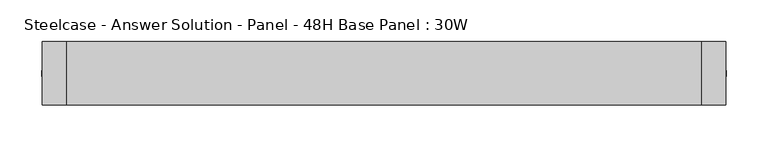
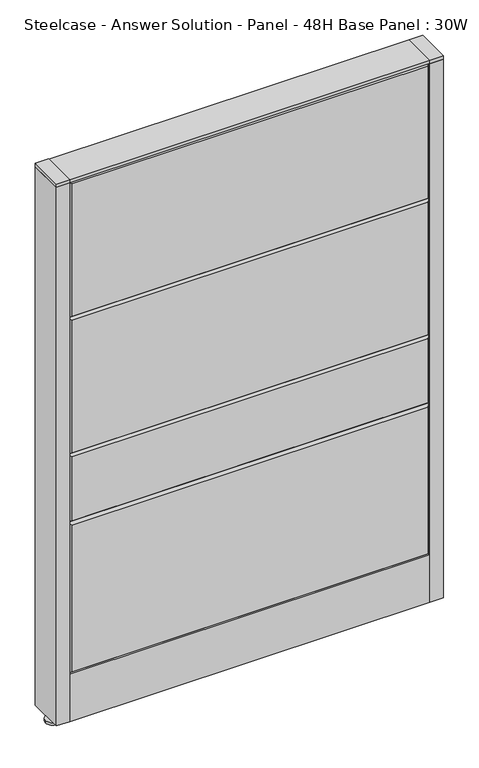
"""IFC4 building model written with IfcOpenShell, lengths in millimetres: furniture geometry, Steelcase - Answer Solution - Panel - 48H Base Panel : 30W."""

import ifcopenshell
import ifcopenshell.guid

model = None  # the IFC model being written
_history = None  # IfcOwnerHistory: only IFC2X3 demands one
_inside = {}  # id of a spatial element -> (the spatial element, [elements in it])
_under = {}  # id of a project, library or spatial element -> (it, [spatial elements below it])
_declared = {}  # id of a project -> (the project, [libraries it declares])
_typed = {}  # id of a type object -> (the type object, [elements of that type])
_made_of = {}  # id of a material, layer set ... -> (it, [elements and type objects made of it])


def new_model(schema):
    """Start an empty IFC model of exactly this schema.

    Asked for "IFC4X3", IfcOpenShell would pick the latest addendum, in which some entities
    have other attributes; the version numbers below select the first issue.
    IFC2X3 requires an IfcOwnerHistory on every rooted entity: one is made here for all.
    """
    global model, _history
    if schema == "IFC4X3":
        model = ifcopenshell.file(schema_version=(4, 3, 0, 0))
    else:
        model = ifcopenshell.file(schema=schema)
    _inside.clear()
    _under.clear()
    _declared.clear()
    _typed.clear()
    _made_of.clear()
    _history = None
    if model.schema == "IFC2X3":
        org = make("IfcOrganization", Name="unknown")
        user = make(
            "IfcPersonAndOrganization",
            ThePerson=make("IfcPerson", FamilyName="unknown"),
            TheOrganization=org,
        )
        app = make(
            "IfcApplication",
            ApplicationDeveloper=org,
            Version="unknown",
            ApplicationFullName="unknown",
            ApplicationIdentifier="unknown",
        )
        _history = make(
            "IfcOwnerHistory",
            OwningUser=user,
            OwningApplication=app,
            ChangeAction="ADDED",
            CreationDate=0,
        )
    return model


def make(cls, **values):
    """One entity of the class cls with the attributes given. An attribute that is None is left unset."""
    return model.create_entity(
        cls, **{name: value for name, value in values.items() if value is not None}
    )


def rooted(cls, **values):
    """An entity with a GlobalId (a new one), such as an element, a storey or a relation."""
    return make(cls, GlobalId=ifcopenshell.guid.new(), OwnerHistory=_history, **values)


def si_unit(unit_type, name, prefix=None):
    """IfcSIUnit, for example si_unit("LENGTHUNIT", "METRE", prefix="MILLI")."""
    return make("IfcSIUnit", UnitType=unit_type, Prefix=prefix, Name=name)


def assignment(units):
    """IfcUnitAssignment: the units of a project."""
    return None if units is None else make("IfcUnitAssignment", Units=units)


def point(xyz):
    """IfcCartesianPoint."""
    return None if xyz is None else make("IfcCartesianPoint", Coordinates=xyz)


def direction(xyz):
    """IfcDirection."""
    return None if xyz is None else make("IfcDirection", DirectionRatios=xyz)


def frame(location, z_axis=None, x_axis=None):
    """IfcAxis2Placement3D, a coordinate frame: its origin and axes. An axis left out is left unset."""
    return make(
        "IfcAxis2Placement3D",
        Location=point(location),
        Axis=direction(z_axis),
        RefDirection=direction(x_axis),
    )


def frame_2d(location, x_axis=None):
    """IfcAxis2Placement2D, a coordinate frame in the plane: its origin and x axis."""
    return make(
        "IfcAxis2Placement2D", Location=point(location), RefDirection=direction(x_axis)
    )


def origin():
    """The frame at (0, 0, 0) with its axes left unset."""
    return frame((0.0, 0.0, 0.0))


def place(relative_to, where):
    """IfcLocalPlacement: puts the frame where relative to a parent placement (None: the world)."""
    return make(
        "IfcLocalPlacement", PlacementRelTo=relative_to, RelativePlacement=where
    )


def context(
    kind, dimensions, precision=None, world=None, true_north=None, identifier=None
):
    """IfcGeometricRepresentationContext, for example the 3D "Model" context."""
    return make(
        "IfcGeometricRepresentationContext",
        ContextIdentifier=identifier,
        ContextType=kind,
        CoordinateSpaceDimension=dimensions,
        Precision=precision,
        WorldCoordinateSystem=world,
        TrueNorth=true_north,
    )


def project(units=None, contexts=None):
    """IfcProject with its units and contexts."""
    return rooted(
        "IfcProject",
        Name="project",
        RepresentationContexts=contexts,
        UnitsInContext=assignment(units),
    )


def spatial(cls, under=None, at=None, **own):
    """A site, building, storey or space (cls), placed at a placement, below another one or the project."""
    s = rooted(cls, ObjectPlacement=at, **own)
    if under is not None:
        _under.setdefault(under.id(), (under, []))[1].append(s)
    return s


def polyline(points):
    """IfcPolyline through the points."""
    return make("IfcPolyline", Points=[point(p) for p in points])


def circle_curve(where, radius):
    """IfcCircle in the frame where."""
    return make("IfcCircle", Position=where, Radius=radius)


def trimmed(basis, trim1, trim2, sense, master):
    """IfcTrimmedCurve: the piece of a basis curve between two trims."""
    return make(
        "IfcTrimmedCurve",
        BasisCurve=basis,
        Trim1=trim1,
        Trim2=trim2,
        SenseAgreement=sense,
        MasterRepresentation=master,
    )


def segment(curve, same_sense, transition):
    """IfcCompositeCurveSegment."""
    return make(
        "IfcCompositeCurveSegment",
        Transition=transition,
        SameSense=same_sense,
        ParentCurve=curve,
    )


def composite_curve(segments, self_intersect=None):
    """IfcCompositeCurve: segments joined end to end."""
    return make("IfcCompositeCurve", Segments=segments, SelfIntersect=self_intersect)


def outline(outer, holes=None, kind="AREA"):
    """IfcArbitraryClosedProfileDef: a profile drawn as a closed curve; with holes, ...WithVoids."""
    if holes is None:
        return make("IfcArbitraryClosedProfileDef", ProfileType=kind, OuterCurve=outer)
    return make(
        "IfcArbitraryProfileDefWithVoids",
        ProfileType=kind,
        OuterCurve=outer,
        InnerCurves=holes,
    )


def extrude(swept, where, along, depth):
    """IfcExtrudedAreaSolid: the profile swept, set in the frame where, extruded along a direction by depth."""
    return make(
        "IfcExtrudedAreaSolid",
        SweptArea=swept,
        Position=where,
        ExtrudedDirection=direction(along),
        Depth=depth,
    )


def faces_of(points, faces, orient=None, outer=None):
    """IfcFace entities. A face is a list of loops; a loop is a list of indices into points, from 0.

    orient and outer hold one flag for each loop. By default every Orientation is true, the
    first loop of a face is its IfcFaceOuterBound and the others are IfcFaceBound.
    """
    made = []
    for i, loops in enumerate(faces):
        bounds = []
        for j, loop in enumerate(loops):
            is_outer = j == 0 if outer is None else outer[i][j]
            bounds.append(
                make(
                    "IfcFaceOuterBound" if is_outer else "IfcFaceBound",
                    Bound=make("IfcPolyLoop", Polygon=[points[k] for k in loop]),
                    Orientation=True if orient is None else orient[i][j],
                )
            )
        made.append(make("IfcFace", Bounds=bounds))
    return made


def faceted_brep(points, faces, orient=None, outer=None, voids=None):
    """IfcFacetedBrep: a solid bounded by flat faces; with voids (closed shells), ...WithVoids."""
    shared = [point(p) for p in points]
    hull = make("IfcClosedShell", CfsFaces=faces_of(shared, faces, orient, outer))
    if voids is None:
        return make("IfcFacetedBrep", Outer=hull)
    return make(
        "IfcFacetedBrepWithVoids",
        Outer=hull,
        Voids=[
            make(cls, CfsFaces=faces_of(shared, fs, o, b)) for cls, fs, o, b in voids
        ],
    )


def shape(context_of_items, identifier, shape_type, items):
    """IfcShapeRepresentation: the items that make up one representation, for example the "Body"."""
    return make(
        "IfcShapeRepresentation",
        ContextOfItems=context_of_items,
        RepresentationIdentifier=identifier,
        RepresentationType=shape_type,
        Items=items,
    )


def source(mapping_origin, context_of_items, identifier, shape_type, items):
    """IfcRepresentationMap: a shape defined once, which mapped items show again and again."""
    return make(
        "IfcRepresentationMap",
        MappingOrigin=mapping_origin,
        MappedRepresentation=shape(context_of_items, identifier, shape_type, items),
    )


def transform(
    local_origin,
    x_axis=None,
    y_axis=None,
    z_axis=None,
    scale=None,
    scale2=None,
    scale3=None,
    uniform=True,
):
    """IfcCartesianTransformationOperator3D, or its non-uniform kind. x_axis, y_axis, z_axis: its Axis1, 2, 3."""
    if uniform:
        return make(
            "IfcCartesianTransformationOperator3D",
            Axis1=direction(x_axis),
            Axis2=direction(y_axis),
            LocalOrigin=point(local_origin),
            Scale=scale,
            Axis3=direction(z_axis),
        )
    return make(
        "IfcCartesianTransformationOperator3DnonUniform",
        Axis1=direction(x_axis),
        Axis2=direction(y_axis),
        LocalOrigin=point(local_origin),
        Scale=scale,
        Axis3=direction(z_axis),
        Scale2=scale2,
        Scale3=scale3,
    )


def mapped(mapping_source, mapping_target):
    """IfcMappedItem: shows the shape of a source again, moved by a transform."""
    return make(
        "IfcMappedItem", MappingSource=mapping_source, MappingTarget=mapping_target
    )


def made_of(thing, what):
    """Note that an element or type object is made of a material, layer set ...; save() writes the relation."""
    if what is not None:
        _made_of.setdefault(what.id(), (what, []))[1].append(thing)
    return thing


def element(
    cls,
    number,
    at=None,
    inside=None,
    cuts=None,
    type_object=None,
    material=None,
    context=None,
    identifier="Body",
    shape_type=None,
    held_by="IfcProductDefinitionShape",
    body=None,
    shapes=None,
    **own,
):
    """One element of the class cls, such as IfcWall. Its Tag is "e" and its number.

    at: its placement. inside: the storey or other place that contains it. cuts: it is an
    opening in that element (IfcRelVoidsElement). A single representation is given by context,
    identifier, shape_type and body (its items); several are given by shapes. held_by: the class
    of the entity that holds the representations. save() writes the other relations.
    """
    e = rooted(cls, Tag="e%d" % number, ObjectPlacement=at, **own)
    if body is not None:
        shapes = [shape(context, identifier, shape_type, body)]
    if shapes is not None:
        e.Representation = make(held_by, Representations=shapes)
    if inside is not None:
        _inside.setdefault(inside.id(), (inside, []))[1].append(e)
    if cuts is not None:
        rooted(
            "IfcRelVoidsElement", RelatingBuildingElement=cuts, RelatedOpeningElement=e
        )
    if type_object is not None:
        _typed.setdefault(type_object.id(), (type_object, []))[1].append(e)
    return made_of(e, material)


def aggregate(whole, parts):
    """IfcRelAggregates: a whole, such as a stair, and the parts it consists of."""
    return rooted("IfcRelAggregates", RelatingObject=whole, RelatedObjects=parts)


def save(model, path):
    """Write the relations noted so far, then the file.

    IfcRelAggregates (storeys below a building ...), IfcRelContainedInSpatialStructure (elements
    in a storey), IfcRelDefinesByType, IfcRelAssociatesMaterial and IfcRelDeclares: one each for
    every whole, place, type object, material and project.
    """
    for whole, parts in _under.values():
        aggregate(whole, parts)
    for where, things in _inside.values():
        rooted(
            "IfcRelContainedInSpatialStructure",
            RelatedElements=things,
            RelatingStructure=where,
        )
    for kind, things in _typed.values():
        rooted("IfcRelDefinesByType", RelatedObjects=things, RelatingType=kind)
    for what, things in _made_of.values():
        rooted("IfcRelAssociatesMaterial", RelatedObjects=things, RelatingMaterial=what)
    for by, libraries in _declared.values():
        rooted("IfcRelDeclares", RelatingContext=by, RelatedDefinitions=libraries)
    model.write(path)


def steelcase_answer_solution_panel_48h_base_panel_30w_17cbf5d4(model_context):
    return source(origin(), model_context, "Body", "SolidModel", [
        extrude(outline(composite_curve([segment(trimmed(circle_curve(frame_2d((395.224, 0.0320214)), 5.08), [point((400.304, 0.0320214))], [point((390.144, 0.0320214))], False, "CARTESIAN"), True, "CONTINUOUS"), segment(trimmed(circle_curve(frame_2d((395.224, 0.0320214)), 5.08), [point((390.144, 0.0320214))], [point((400.304, 0.0320214))], False, "CARTESIAN"), True, "CONTINUOUS")], self_intersect=False)), frame((0.0, 0.0, 5.0799671), z_axis=(0.0, 0.0, 1.0), x_axis=(1.0, 0.0, 0.0)), (0.0, 0.0, 1.0), 10.414),
        extrude(outline(composite_curve([segment(trimmed(circle_curve(frame_2d((395.224, 0.0320214)), 15.24), [point((410.464, 0.0320214))], [point((379.984, 0.0320214))], False, "CARTESIAN"), True, "CONTINUOUS"), segment(trimmed(circle_curve(frame_2d((395.224, 0.0320214)), 15.24), [point((379.984, 0.0320214))], [point((410.464, 0.0320214))], False, "CARTESIAN"), True, "CONTINUOUS")], self_intersect=False)), frame((0.0, 0.0, -3.29e-05), z_axis=(0.0, 0.0, 1.0), x_axis=(1.0, 0.0, 0.0)), (0.0, 0.0, 1.0), 5.08),
        extrude(outline(polyline([(409.575, 38.1320408), (409.575, -38.0679592), (381.0, -38.0679592), (381.0, 38.1320408), (409.575, 38.1320408)])), frame((0.0, 0.0, 1218.2348), z_axis=(0.0, 0.0, 1.0), x_axis=(1.0, 0.0, 0.0)), (0.0, 0.0, 1.0), 7.3151671),
        extrude(outline(polyline([(409.575, 38.1320408), (409.575, -38.0679592), (381.0, -38.0679592), (381.0, 38.1320408), (409.575, 38.1320408)])), frame((0.0, 0.0, 15.4939671), z_axis=(0.0, 0.0, 1.0), x_axis=(1.0, 0.0, 0.0)), (0.0, 0.0, 1.0), 1202.7408329),
        extrude(outline(composite_curve([segment(trimmed(circle_curve(frame_2d((-395.224, 0.0320214)), 5.08), [point((-400.304, 0.0320214))], [point((-390.144, 0.0320214))], False, "CARTESIAN"), True, "CONTINUOUS"), segment(trimmed(circle_curve(frame_2d((-395.224, 0.0320214)), 5.08), [point((-390.144, 0.0320214))], [point((-400.304, 0.0320214))], False, "CARTESIAN"), True, "CONTINUOUS")], self_intersect=False)), frame((0.0, 0.0, 5.0799671), z_axis=(0.0, 0.0, 1.0), x_axis=(1.0, 0.0, 0.0)), (0.0, 0.0, 1.0), 10.414),
        extrude(outline(composite_curve([segment(trimmed(circle_curve(frame_2d((-395.224, 0.0320214)), 15.24), [point((-410.464, 0.0320214))], [point((-379.984, 0.0320214))], False, "CARTESIAN"), True, "CONTINUOUS"), segment(trimmed(circle_curve(frame_2d((-395.224, 0.0320214)), 15.24), [point((-379.984, 0.0320214))], [point((-410.464, 0.0320214))], False, "CARTESIAN"), True, "CONTINUOUS")], self_intersect=False)), frame((0.0, 0.0, -3.29e-05), z_axis=(0.0, 0.0, 1.0), x_axis=(1.0, 0.0, 0.0)), (0.0, 0.0, 1.0), 5.08),
        extrude(outline(polyline([(-409.575, 38.1320408), (-381.0, 38.1320408), (-381.0, -38.0679592), (-409.575, -38.0679592), (-409.575, 38.1320408)])), frame((0.0, 0.0, 1218.2348), z_axis=(0.0, 0.0, 1.0), x_axis=(1.0, 0.0, 0.0)), (0.0, 0.0, 1.0), 7.3151671),
        extrude(outline(polyline([(-409.575, 38.1320408), (-381.0, 38.1320408), (-381.0, -38.0679592), (-409.575, -38.0679592), (-409.575, 38.1320408)])), frame((0.0, 0.0, 15.4939671), z_axis=(0.0, 0.0, 1.0), x_axis=(1.0, 0.0, 0.0)), (0.0, 0.0, 1.0), 1202.7408329),
        faceted_brep([(-376.174, 38.1635011, 1214.374), (376.174, 38.1635011, 1214.374), (376.174, 38.1635011, 919.226), (-376.174, 38.1635011, 919.226), (-381.0, 33.3375011, 1219.2), (-381.0, 33.3375011, 914.4), (381.0, 33.3375011, 914.4), (381.0, 33.3375011, 1219.2)], [[[0, 1, 2, 3]], [[4, 5, 6, 7]], [[4, 7, 1, 0]], [[7, 6, 2, 1]], [[6, 5, 3, 2]], [[5, 4, 0, 3]]]),
        faceted_brep([(-376.174, 38.1635011, 909.574), (376.174, 38.1635011, 909.574), (376.174, 38.1635011, 614.426), (-376.174, 38.1635011, 614.426), (-381.0, 33.3375011, 914.4), (-381.0, 33.3375011, 609.6), (381.0, 33.3375011, 609.6), (381.0, 33.3375011, 914.4)], [[[0, 1, 2, 3]], [[4, 5, 6, 7]], [[4, 7, 1, 0]], [[7, 6, 2, 1]], [[6, 5, 3, 2]], [[5, 4, 0, 3]]]),
        faceted_brep([(-376.174, 38.1635011, 604.774), (376.174, 38.1635011, 604.774), (376.174, 38.1635011, 462.026), (-376.174, 38.1635011, 462.026), (-381.0, 33.3375011, 609.6), (-381.0, 33.3375011, 457.2), (381.0, 33.3375011, 457.2), (381.0, 33.3375011, 609.6)], [[[0, 1, 2, 3]], [[4, 5, 6, 7]], [[4, 7, 1, 0]], [[7, 6, 2, 1]], [[6, 5, 3, 2]], [[5, 4, 0, 3]]]),
        faceted_brep([(-376.174, 38.1635011, 452.374), (376.174, 38.1635011, 452.374), (376.174, 38.1635011, 125.476), (-376.174, 38.1635011, 125.476), (-381.0, 33.3375011, 457.2), (-381.0, 33.3375011, 120.65), (381.0, 33.3375011, 120.65), (381.0, 33.3375011, 457.2)], [[[0, 1, 2, 3]], [[4, 5, 6, 7]], [[4, 7, 1, 0]], [[7, 6, 2, 1]], [[6, 5, 3, 2]], [[5, 4, 0, 3]]]),
        faceted_brep([(376.174, -38.1635011, 1214.374), (-376.174, -38.1635011, 1214.374), (-376.174, -38.1635011, 919.226), (376.174, -38.1635011, 919.226), (381.0, -33.3375011, 1219.2), (381.0, -33.3375011, 914.4), (-381.0, -33.3375011, 914.4), (-381.0, -33.3375011, 1219.2)], [[[0, 1, 2, 3]], [[4, 5, 6, 7]], [[4, 7, 1, 0]], [[7, 6, 2, 1]], [[6, 5, 3, 2]], [[5, 4, 0, 3]]]),
        faceted_brep([(376.174, -38.1635011, 909.574), (-376.174, -38.1635011, 909.574), (-376.174, -38.1635011, 614.426), (376.174, -38.1635011, 614.426), (381.0, -33.3375011, 914.4), (381.0, -33.3375011, 609.6), (-381.0, -33.3375011, 609.6), (-381.0, -33.3375011, 914.4)], [[[0, 1, 2, 3]], [[4, 5, 6, 7]], [[4, 7, 1, 0]], [[7, 6, 2, 1]], [[6, 5, 3, 2]], [[5, 4, 0, 3]]]),
        faceted_brep([(376.174, -38.1635011, 604.774), (-376.174, -38.1635011, 604.774), (-376.174, -38.1635011, 462.026), (376.174, -38.1635011, 462.026), (381.0, -33.3375011, 609.6), (381.0, -33.3375011, 457.2), (-381.0, -33.3375011, 457.2), (-381.0, -33.3375011, 609.6)], [[[0, 1, 2, 3]], [[4, 5, 6, 7]], [[4, 7, 1, 0]], [[7, 6, 2, 1]], [[6, 5, 3, 2]], [[5, 4, 0, 3]]]),
        faceted_brep([(376.174, -38.1635011, 452.374), (-376.174, -38.1635011, 452.374), (-376.174, -38.1635011, 125.476), (376.174, -38.1635011, 125.476), (381.0, -33.3375011, 457.2), (381.0, -33.3375011, 120.65), (-381.0, -33.3375011, 120.65), (-381.0, -33.3375011, 457.2)], [[[0, 1, 2, 3]], [[4, 5, 6, 7]], [[4, 7, 1, 0]], [[7, 6, 2, 1]], [[6, 5, 3, 2]], [[5, 4, 0, 3]]]),
        extrude(outline(polyline([(381.0, 38.1000194), (381.0, -38.1000194), (-381.0, -38.1000194), (-381.0, 38.1000194), (381.0, 38.1000194)])), frame((0.0, 0.0, 1219.2), z_axis=(0.0, 0.0, 1.0), x_axis=(1.0, 0.0, 0.0)), (0.0, 0.0, 1.0), 6.35),
        extrude(outline(polyline([(25.4000011, 119.8575157), (25.4000011, 120.65), (38.1000194, 120.65), (38.1000194, 15.494), (37.3075215, 15.494), (37.3075215, 119.8575157), (25.4000011, 119.8575157)])), frame((-381.0, 0.0, 0.0), z_axis=(1.0, 0.0, 0.0), x_axis=(0.0, 1.0, 0.0)), (0.0, 0.0, 1.0), 762.0),
        extrude(outline(polyline([(-25.4000011, 119.8575157), (-37.3075215, 119.8575157), (-37.3075215, 15.494), (-38.1000194, 15.494), (-38.1000194, 120.65), (-25.4000011, 120.65), (-25.4000011, 119.8575157)])), frame((-381.0, 0.0, 0.0), z_axis=(1.0, 0.0, 0.0), x_axis=(0.0, 1.0, 0.0)), (0.0, 0.0, 1.0), 762.0),
    ])


if __name__ == "__main__":
    model = new_model("IFC4")
    model_context = context("Model", 3, world=origin())
    ifc_project = project(units=[si_unit("LENGTHUNIT", "METRE", prefix="MILLI")], contexts=[model_context])
    site = spatial("IfcSite", under=ifc_project)
    building = spatial("IfcBuilding", under=site)
    placement = place(None, origin())
    steelcase_answer_solution_panel_48h_base_panel_30w_shape = steelcase_answer_solution_panel_48h_base_panel_30w_17cbf5d4(model_context)
    element("IfcFurniture", 1, ObjectType="Steelcase - Answer Solution - Panel - 48H Base Panel : 30W", at=placement, inside=building, context=model_context, shape_type="MappedRepresentation", body=[
        mapped(steelcase_answer_solution_panel_48h_base_panel_30w_shape, transform((0.0, 0.0, 0.0), x_axis=(1.0, 0.0, 0.0), y_axis=(0.0, 1.0, 0.0), z_axis=(0.0, 0.0, 1.0))),
    ])
    save(model, "model.ifc")
